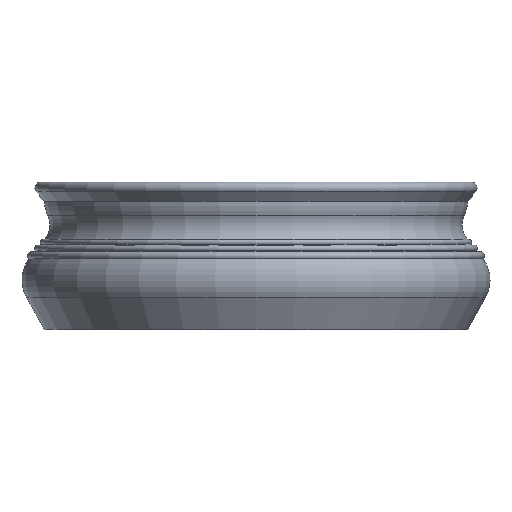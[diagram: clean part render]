
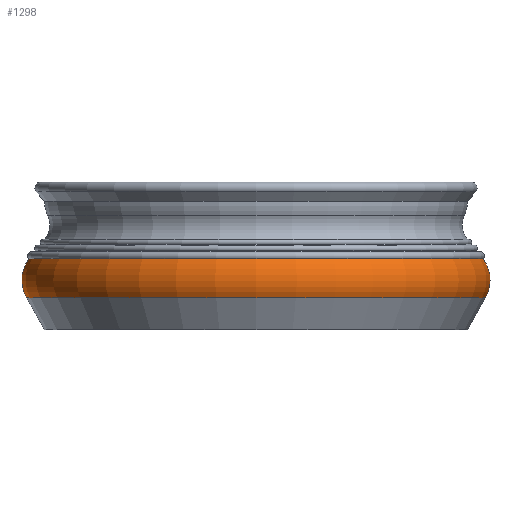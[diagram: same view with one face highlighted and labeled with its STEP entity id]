
A CAD part, front view. The second image highlights one B-rep face of the part: STEP entity #1298.
In plain terms, the highlighted toroidal (fillet/blend) face has major radius 167.45 mm and minor radius 30.55 mm.
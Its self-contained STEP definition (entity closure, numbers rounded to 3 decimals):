
#22=TOROIDAL_SURFACE('',#1475,167.45,30.55);
#164=FACE_OUTER_BOUND('',#280,.T.);
#280=EDGE_LOOP('',(#1187,#1188,#1189,#1190));
#517=CIRCLE('',#1439,194.128);
#539=CIRCLE('',#1476,192.152);
#540=CIRCLE('',#1477,30.55);
#642=VERTEX_POINT('',#2198);
#657=VERTEX_POINT('',#2257);
#805=EDGE_CURVE('',#642,#642,#517,.T.);
#834=EDGE_CURVE('',#657,#657,#539,.T.);
#835=EDGE_CURVE('',#657,#642,#540,.T.);
#1187=ORIENTED_EDGE('',*,*,#834,.F.);
#1188=ORIENTED_EDGE('',*,*,#835,.T.);
#1189=ORIENTED_EDGE('',*,*,#805,.T.);
#1190=ORIENTED_EDGE('',*,*,#835,.F.);
#1298=ADVANCED_FACE('',(#164),#22,.T.);
#1439=AXIS2_PLACEMENT_3D('',#2199,#1805,#1806);
#1475=AXIS2_PLACEMENT_3D('',#2256,#1884,#1885);
#1476=AXIS2_PLACEMENT_3D('',#2258,#1886,#1887);
#1477=AXIS2_PLACEMENT_3D('',#2259,#1888,#1889);
#1805=DIRECTION('center_axis',(0.,0.,1.));
#1806=DIRECTION('ref_axis',(1.,0.,0.));
#1884=DIRECTION('center_axis',(0.,0.,1.));
#1885=DIRECTION('ref_axis',(1.,0.,0.));
#1886=DIRECTION('center_axis',(0.,0.,1.));
#1887=DIRECTION('ref_axis',(1.,0.,0.));
#1888=DIRECTION('center_axis',(0.,-1.,0.));
#1889=DIRECTION('ref_axis',(-1.,0.,0.));
#2198=CARTESIAN_POINT('',(-194.128,0.,27.115));
#2199=CARTESIAN_POINT('Origin',(0.,0.,27.115));
#2256=CARTESIAN_POINT('Origin',(0.,0.,42.));
#2257=CARTESIAN_POINT('',(-192.152,0.,59.976));
#2258=CARTESIAN_POINT('Origin',(0.,0.,59.976));
#2259=CARTESIAN_POINT('Origin',(-167.45,0.,
42.));
